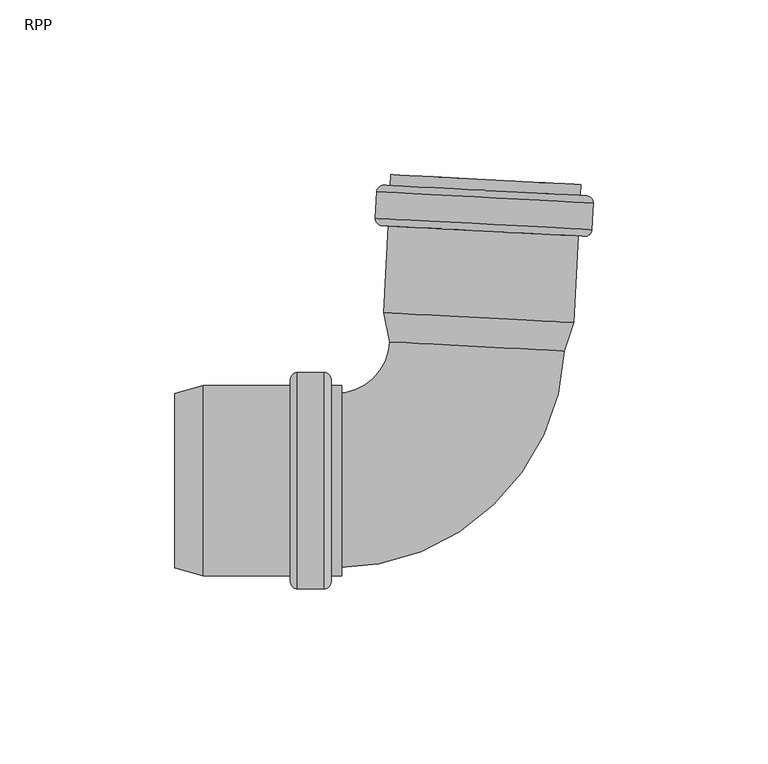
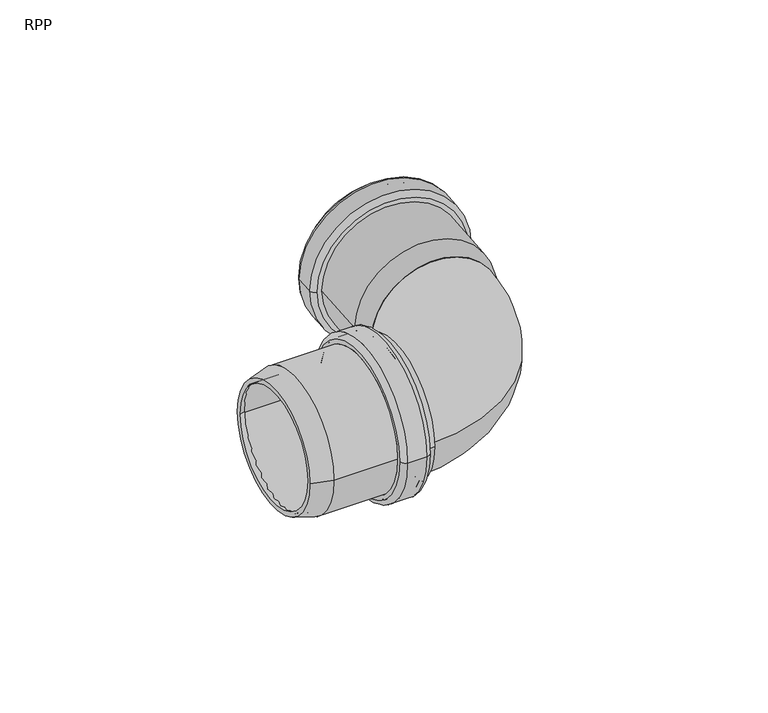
"""IFC4 building model written with IfcOpenShell, lengths in millimetres: pipe fitting geometry, RAUPIANO PLUS Bend : RPP."""

from ifc_helpers import new_model, si_unit, point, frame, origin, place, context, project, spatial, polyline, circle_curve, ellipse_curve, trimmed, source, transform, mapped, element, save
from ifc_brep_helpers import plane_surface, cylinder_surface, revolved_surface, advanced_brep


def rpp_967ad729(model_context):
    return source(origin(), model_context, "Body", "AdvancedBrep", [
        advanced_brep(
        [(-49.5, -25.3, 0.0), (-49.5, 25.3, 0.0), (-76.0393485, 25.3, 0.0), (-76.0393485, -25.3, 0.0), (-49.0, -29.1, 0.0), (-49.0, 29.1, 0.0), (-49.5, 28.6, 0.0), (-49.5, -28.6, 0.0), (-42.2, -29.1, 0.0), (-42.2, 29.1, 0.0), (-41.7, -28.6, 0.0), (-41.7, 28.6, 0.0), (-36.7, -25.3, 0.0), (-36.7, 25.3, 0.0), (-41.7, 25.3, 0.0), (-41.7, -25.3, 0.0), (-39.8, -27.2, 0.0), (-39.8, 27.2, 0.0), (-36.7, 27.2, 0.0), (-36.7, -27.2, 0.0), (-41.8, -31.0, 0.0), (-41.8, 31.0, 0.0), (-39.8, 29.0, 0.0), (-39.8, -29.0, 0.0), (-49.4, -31.0, 0.0), (-49.4, 31.0, 0.0), (-51.4, -29.0, 0.0), (-51.4, 29.0, 0.0), (-76.2894882, -27.2, 0.0), (-76.2894882, 27.2, 0.0), (-51.4, 27.2, 0.0), (-51.4, -27.2, 0.0), (-84.5, -25.0, 0.0), (-84.5, 25.0, 0.0), (-84.5, 23.0329753, 0.0), (-84.5, -23.0329753, 0.0)],
        [
            (0, 1, circle_curve(frame((-49.5, 0.0, 0.0), z_axis=(1.0, 0.0, 0.0), x_axis=(0.0, 1.0, 0.0)), 25.3)),
            (1, 2),
            (2, 3, circle_curve(frame((-76.0393485, 0.0, 0.0), z_axis=(-1.0, 0.0, 0.0), x_axis=(0.0, 1.0, 0.0)), 25.3)),
            (3, 0),
            (4, 5, circle_curve(frame((-49.0, 0.0, 0.0), z_axis=(1.0, 0.0, 0.0), x_axis=(0.0, 1.0, 0.0)), 29.1)),
            (5, 6, circle_curve(frame((-49.0, 28.6, 0.0), z_axis=(0.0, 0.0, 1.0), x_axis=(0.0, -1.0, 0.0)), 0.5)),
            (6, 7, circle_curve(frame((-49.5, 0.0, 0.0), z_axis=(-1.0, 0.0, 0.0), x_axis=(0.0, 1.0, 0.0)), 28.6)),
            (7, 4, circle_curve(frame((-49.0, -28.6, 0.0), z_axis=(0.0, 0.0, 1.0), x_axis=(0.0, 1.0, 0.0)), 0.5)),
            (8, 9, circle_curve(frame((-42.2, 0.0, 0.0), z_axis=(1.0, 0.0, 0.0), x_axis=(0.0, 1.0, 0.0)), 29.1)),
            (9, 5),
            (4, 8),
            (10, 11, circle_curve(frame((-41.7, 0.0, 0.0), z_axis=(1.0, 0.0, 0.0), x_axis=(0.0, 1.0, 0.0)), 28.6)),
            (11, 9, circle_curve(frame((-42.2, 28.6, 0.0), z_axis=(0.0, 0.0, 1.0), x_axis=(0.0, -1.0, 0.0)), 0.5)),
            (8, 10, circle_curve(frame((-42.2, -28.6, 0.0), z_axis=(0.0, 0.0, 1.0), x_axis=(0.0, 1.0, 0.0)), 0.5)),
            (12, 13, circle_curve(frame((-36.7, 0.0, 0.0), z_axis=(1.0, 0.0, 0.0), x_axis=(0.0, 1.0, 0.0)), 25.3)),
            (13, 14),
            (14, 15, circle_curve(frame((-41.7, 0.0, 0.0), z_axis=(-1.0, 0.0, 0.0), x_axis=(0.0, 1.0, 0.0)), 25.3)),
            (15, 12),
            (16, 17, circle_curve(frame((-39.8, 0.0, 0.0), z_axis=(1.0, 0.0, 0.0), x_axis=(0.0, 1.0, 0.0)), 27.2)),
            (17, 18),
            (18, 19, circle_curve(frame((-36.7, 0.0, 0.0), z_axis=(-1.0, 0.0, 0.0), x_axis=(0.0, 1.0, 0.0)), 27.2)),
            (19, 16),
            (20, 21, circle_curve(frame((-41.8, 0.0, 0.0), z_axis=(1.0, 0.0, 0.0), x_axis=(0.0, 1.0, 0.0)), 31.0)),
            (21, 22, circle_curve(frame((-41.8, 29.0, 0.0), z_axis=(0.0, 0.0, -1.0), x_axis=(0.0, -1.0, 0.0)), 2.0)),
            (22, 23, circle_curve(frame((-39.8, 0.0, 0.0), z_axis=(-1.0, 0.0, 0.0), x_axis=(0.0, 1.0, 0.0)), 29.0)),
            (23, 20, circle_curve(frame((-41.8, -29.0, 0.0), z_axis=(0.0, 0.0, -1.0), x_axis=(0.0, 1.0, 0.0)), 2.0)),
            (24, 25, circle_curve(frame((-49.4, 0.0, 0.0), z_axis=(1.0, 0.0, 0.0), x_axis=(0.0, 1.0, 0.0)), 31.0)),
            (25, 21),
            (20, 24),
            (26, 27, circle_curve(frame((-51.4, 0.0, 0.0), z_axis=(1.0, 0.0, 0.0), x_axis=(0.0, 1.0, 0.0)), 29.0)),
            (27, 25, circle_curve(frame((-49.4, 29.0, 0.0), z_axis=(0.0, 0.0, -1.0), x_axis=(0.0, -1.0, 0.0)), 2.0)),
            (24, 26, circle_curve(frame((-49.4, -29.0, 0.0), z_axis=(0.0, 0.0, -1.0), x_axis=(0.0, 1.0, 0.0)), 2.0)),
            (28, 29, circle_curve(frame((-76.2894882, 0.0, 0.0), z_axis=(1.0, 0.0, 0.0), x_axis=(0.0, 1.0, 0.0)), 27.2)),
            (29, 30),
            (30, 31, circle_curve(frame((-51.4, 0.0, 0.0), z_axis=(-1.0, 0.0, 0.0), x_axis=(0.0, 1.0, 0.0)), 27.2)),
            (31, 28),
            (32, 33, circle_curve(frame((-84.5, 0.0, 0.0), z_axis=(1.0, 0.0, 0.0), x_axis=(0.0, 1.0, 0.0)), 25.0)),
            (33, 29),
            (28, 32),
            (2, 34),
            (34, 35, circle_curve(frame((-84.5, 0.0, 0.0), z_axis=(-1.0, 0.0, 0.0), x_axis=(0.0, 1.0, 0.0)), 23.0329753)),
            (35, 3),
            (1, 0, circle_curve(frame((-49.5, 0.0, 0.0), z_axis=(1.0, 0.0, 0.0), x_axis=(0.0, -1.0, 0.0)), 25.3)),
            (3, 2, circle_curve(frame((-76.0393485, 0.0, 0.0), z_axis=(-1.0, 0.0, 0.0), x_axis=(0.0, -1.0, 0.0)), 25.3)),
            (6, 7, circle_curve(frame((-49.5, 0.0, 0.0), z_axis=(1.0, 0.0, 0.0), x_axis=(0.0, -1.0, 0.0)), 28.6)),
            (5, 4, circle_curve(frame((-49.0, 0.0, 0.0), z_axis=(1.0, 0.0, 0.0), x_axis=(0.0, -1.0, 0.0)), 29.1)),
            (9, 8, circle_curve(frame((-42.2, 0.0, 0.0), z_axis=(1.0, 0.0, 0.0), x_axis=(0.0, -1.0, 0.0)), 29.1)),
            (11, 10, circle_curve(frame((-41.7, 0.0, 0.0), z_axis=(1.0, 0.0, 0.0), x_axis=(0.0, -1.0, 0.0)), 28.6)),
            (14, 15, circle_curve(frame((-41.7, 0.0, 0.0), z_axis=(1.0, 0.0, 0.0), x_axis=(0.0, -1.0, 0.0)), 25.3)),
            (13, 12, circle_curve(frame((-36.7, 0.0, 0.0), z_axis=(1.0, 0.0, 0.0), x_axis=(0.0, -1.0, 0.0)), 25.3)),
            (18, 19, circle_curve(frame((-36.7, 0.0, 0.0), z_axis=(1.0, 0.0, 0.0), x_axis=(0.0, -1.0, 0.0)), 27.2)),
            (17, 16, circle_curve(frame((-39.8, 0.0, 0.0), z_axis=(1.0, 0.0, 0.0), x_axis=(0.0, -1.0, 0.0)), 27.2)),
            (22, 23, circle_curve(frame((-39.8, 0.0, 0.0), z_axis=(1.0, 0.0, 0.0), x_axis=(0.0, -1.0, 0.0)), 29.0)),
            (21, 20, circle_curve(frame((-41.8, 0.0, 0.0), z_axis=(1.0, 0.0, 0.0), x_axis=(0.0, -1.0, 0.0)), 31.0)),
            (25, 24, circle_curve(frame((-49.4, 0.0, 0.0), z_axis=(1.0, 0.0, 0.0), x_axis=(0.0, -1.0, 0.0)), 31.0)),
            (27, 26, circle_curve(frame((-51.4, 0.0, 0.0), z_axis=(1.0, 0.0, 0.0), x_axis=(0.0, -1.0, 0.0)), 29.0)),
            (30, 31, circle_curve(frame((-51.4, 0.0, 0.0), z_axis=(1.0, 0.0, 0.0), x_axis=(0.0, -1.0, 0.0)), 27.2)),
            (29, 28, circle_curve(frame((-76.2894882, 0.0, 0.0), z_axis=(1.0, 0.0, 0.0), x_axis=(0.0, -1.0, 0.0)), 27.2)),
            (33, 32, circle_curve(frame((-84.5, 0.0, 0.0), z_axis=(1.0, 0.0, 0.0), x_axis=(0.0, -1.0, 0.0)), 25.0)),
            (34, 35, circle_curve(frame((-84.5, 0.0, 0.0), z_axis=(1.0, 0.0, 0.0), x_axis=(0.0, -1.0, 0.0)), 23.0329753)),
        ],
        [
            revolved_surface(polyline([(-76.0393485, 25.3, 0.0), (-49.5, 25.3, 0.0)]), (-84.5, 0.0, 0.0), (-1.0, 0.0, 0.0)),
            revolved_surface(trimmed(ellipse_curve(frame((-49.0, 28.6, 0.0), z_axis=(0.0, 0.0, -1.0), x_axis=(0.0, -1.0, 0.0)), 0.5, 0.5), [point((-49.5, 28.6, 0.0))], [point((-49.0, 29.1, 0.0))], True, "CARTESIAN"), (-84.5, 0.0, 0.0), (-1.0, 0.0, 0.0)),
            revolved_surface(polyline([(-49.0, 29.1, 0.0), (-42.2, 29.1, 0.0)]), (-84.5, 0.0, 0.0), (-1.0, 0.0, 0.0)),
            revolved_surface(trimmed(ellipse_curve(frame((-42.2, 28.6, 0.0), z_axis=(0.0, 0.0, -1.0), x_axis=(0.0, -1.0, 0.0)), 0.5, 0.5), [point((-42.2, 29.1, 0.0))], [point((-41.7, 28.6, 0.0))], True, "CARTESIAN"), (-84.5, 0.0, 0.0), (-1.0, 0.0, 0.0)),
            revolved_surface(polyline([(-41.7, 25.3, 0.0), (-36.7, 25.3, 0.0)]), (-84.5, 0.0, 0.0), (-1.0, 0.0, 0.0)),
            cylinder_surface(frame((-84.5, 0.0, 0.0), z_axis=(-1.0, 0.0, 0.0), x_axis=(0.0, 1.0, 0.0)), 27.2),
            revolved_surface(trimmed(ellipse_curve(frame((-41.8, 29.0, 0.0), z_axis=(0.0, 0.0, 1.0), x_axis=(0.0, -1.0, 0.0)), 2.0, 2.0), [point((-39.8, 29.0, 0.0))], [point((-41.8, 31.0, 0.0))], True, "CARTESIAN"), (-84.5, 0.0, 0.0), (-1.0, 0.0, 0.0)),
            cylinder_surface(frame((-84.5, 0.0, 0.0), z_axis=(-1.0, 0.0, 0.0), x_axis=(0.0, 1.0, 0.0)), 31.0),
            revolved_surface(trimmed(ellipse_curve(frame((-49.4, 29.0, 0.0), z_axis=(0.0, 0.0, 1.0), x_axis=(0.0, -1.0, 0.0)), 2.0, 2.0), [point((-49.4, 31.0, 0.0))], [point((-51.4, 29.0, 0.0))], True, "CARTESIAN"), (-84.5, 0.0, 0.0), (-1.0, 0.0, 0.0)),
            revolved_surface(polyline([(-76.2894882, 27.2, 0.0), (-84.5, 25.0, 0.0)]), (-84.5, 0.0, 0.0), (-1.0, 0.0, 0.0)),
            revolved_surface(polyline([(-84.5, 23.0329753, 0.0), (-76.0393485, 25.3, 0.0)]), (-84.5, 0.0, 0.0), (-1.0, 0.0, 0.0)),
            revolved_surface(polyline([(-76.0393485, -25.3, 0.0), (-49.5, -25.3, 0.0)]), (-84.5, 0.0, 0.0), (-1.0, 0.0, 0.0)),
            plane_surface(frame((-49.5, 0.0, 0.0), z_axis=(1.0, 0.0, 0.0), x_axis=(0.0, -1.0, 0.0))),
            revolved_surface(trimmed(ellipse_curve(frame((-49.0, -28.6, 0.0), z_axis=(0.0, 0.0, 1.0), x_axis=(0.0, 1.0, 0.0)), 0.5, 0.5), [point((-49.5, -28.6, 0.0))], [point((-49.0, -29.1, 0.0))], True, "CARTESIAN"), (-84.5, 0.0, 0.0), (-1.0, 0.0, 0.0)),
            revolved_surface(polyline([(-49.0, -29.1, 0.0), (-42.2, -29.1, 0.0)]), (-84.5, 0.0, 0.0), (-1.0, 0.0, 0.0)),
            revolved_surface(trimmed(ellipse_curve(frame((-42.2, -28.6, 0.0), z_axis=(0.0, 0.0, 1.0), x_axis=(0.0, 1.0, 0.0)), 0.5, 0.5), [point((-42.2, -29.1, 0.0))], [point((-41.7, -28.6, 0.0))], True, "CARTESIAN"), (-84.5, 0.0, 0.0), (-1.0, 0.0, 0.0)),
            plane_surface(frame((-41.7, 0.0, 0.0), z_axis=(-1.0, 0.0, 0.0), x_axis=(0.0, -1.0, 0.0))),
            revolved_surface(polyline([(-41.7, -25.3, 0.0), (-36.7, -25.3, 0.0)]), (-84.5, 0.0, 0.0), (-1.0, 0.0, 0.0)),
            plane_surface(frame((-36.7, 0.0, 0.0), z_axis=(1.0, 0.0, 0.0), x_axis=(0.0, -1.0, 0.0))),
            cylinder_surface(frame((-84.5, 0.0, 0.0), z_axis=(-1.0, 0.0, 0.0), x_axis=(0.0, -1.0, 0.0)), 27.2),
            plane_surface(frame((-39.8, 0.0, 0.0), z_axis=(1.0, 0.0, 0.0), x_axis=(0.0, -1.0, 0.0))),
            revolved_surface(trimmed(ellipse_curve(frame((-41.8, -29.0, 0.0), z_axis=(0.0, 0.0, -1.0), x_axis=(0.0, 1.0, 0.0)), 2.0, 2.0), [point((-39.8, -29.0, 0.0))], [point((-41.8, -31.0, 0.0))], True, "CARTESIAN"), (-84.5, 0.0, 0.0), (-1.0, 0.0, 0.0)),
            cylinder_surface(frame((-84.5, 0.0, 0.0), z_axis=(-1.0, 0.0, 0.0), x_axis=(0.0, -1.0, 0.0)), 31.0),
            revolved_surface(trimmed(ellipse_curve(frame((-49.4, -29.0, 0.0), z_axis=(0.0, 0.0, -1.0), x_axis=(0.0, 1.0, 0.0)), 2.0, 2.0), [point((-49.4, -31.0, 0.0))], [point((-51.4, -29.0, 0.0))], True, "CARTESIAN"), (-84.5, 0.0, 0.0), (-1.0, 0.0, 0.0)),
            plane_surface(frame((-51.4, 0.0, 0.0), z_axis=(-1.0, 0.0, 0.0), x_axis=(0.0, -1.0, 0.0))),
            revolved_surface(polyline([(-76.2894882, -27.2, 0.0), (-84.5, -25.0, 0.0)]), (-84.5, 0.0, 0.0), (-1.0, 0.0, 0.0)),
            plane_surface(frame((-84.5, 0.0, 0.0), z_axis=(-1.0, 0.0, 0.0), x_axis=(0.0, -1.0, 0.0))),
            revolved_surface(polyline([(-84.5, -23.0329753, 0.0), (-76.0393485, -25.3, 0.0)]), (-84.5, 0.0, 0.0), (-1.0, 0.0, 0.0)),
        ],
        [
            (0, [[1, 2, 3, 4]]),
            (1, [[5, 6, 7, 8]]),
            (2, [[9, 10, -5, 11]]),
            (3, [[12, 13, -9, 14]]),
            (4, [[15, 16, 17, 18]]),
            (5, [[19, 20, 21, 22]]),
            (6, [[23, 24, 25, 26]]),
            (7, [[27, 28, -23, 29]]),
            (8, [[30, 31, -27, 32]]),
            (5, [[33, 34, 35, 36]]),
            (9, [[37, 38, -33, 39]]),
            (10, [[-3, 40, 41, 42]]),
            (11, [[43, -4, 44, -2]]),
            (12, [[45, -7], [-43, -1]]),
            (13, [[46, -8, -45, -6]]),
            (14, [[47, -11, -46, -10]]),
            (15, [[48, -14, -47, -13]]),
            (16, [[-48, -12], [49, -17]]),
            (17, [[50, -18, -49, -16]]),
            (18, [[51, -21], [-50, -15]]),
            (19, [[52, -22, -51, -20]]),
            (20, [[53, -25], [-52, -19]]),
            (21, [[54, -26, -53, -24]]),
            (22, [[55, -29, -54, -28]]),
            (23, [[56, -32, -55, -31]]),
            (24, [[-56, -30], [57, -35]]),
            (19, [[58, -36, -57, -34]]),
            (25, [[59, -39, -58, -38]]),
            (26, [[-59, -37], [60, -41]]),
            (27, [[-44, -42, -60, -40]]),
        ],
    ),
        advanced_brep(
        [(25.0163437, 37.2417843, 0.0), (-20.986475, 39.6526899, 0.0), (-22.8075966, 48.2203933, 0.0), (27.7230578, 45.5721939, 0.0), (29.6073626, 45.2229586, 0.0), (-24.718084, 48.0700347, 0.0), (-22.9508041, 39.755636, 0.0), (26.9806727, 37.1388382, 0.0), (30.9099778, 70.0783367, 0.0), (-23.4154689, 72.9254127, 0.0), (35.2071952, 79.4663036, 0.0), (-26.7078359, 82.7111329, 0.0), (-27.1055892, 75.1215484, 0.0), (34.809442, 71.8767191, 0.0), (31.6793164, 84.7581908, 0.0), (-22.6461303, 87.6052669, 0.0), (-22.8083718, 84.5095153, 0.0), (31.5170749, 81.6624393, 0.0), (29.5202405, 79.8644815, 0.0), (-21.010414, 82.5126809, 0.0), (-20.7487342, 87.5058285, 0.0), (29.7819203, 84.8576292, 0.0), (32.9329802, 72.3756092, 0.0), (-25.1872587, 75.4215619, 0.0), (-24.8313742, 82.2122427, 0.0), (33.2888647, 79.1662901, 0.0), (-21.4186344, 74.7233705, 0.0), (29.11202, 72.0751711, 0.0), (-25.213002, 73.0196174, 0.0), (32.707511, 69.984132, 0.0), (33.3146081, 81.5682346, 0.0), (-24.6059049, 84.60372, 0.0), (-24.3058915, 82.6853895, 0.0), (32.8157179, 79.6917728, 0.0), (32.4074975, 71.9024625, 0.0), (-24.7141119, 74.8960792, 0.0)],
        [
            (0, 1, circle_curve(frame((2.0149343, 38.4472371, 0.0), z_axis=(-0.05233595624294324, -0.9986295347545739, 0.0), x_axis=(-0.9986295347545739, 0.05233595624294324, 0.0)), 23.0329753)),
            (1, 2),
            (2, 3, circle_curve(frame((2.4577306, 46.8962936, 0.0), z_axis=(0.05233595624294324, 0.9986295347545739, 0.0), x_axis=(-0.9986295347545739, 0.05233595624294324, 0.0)), 25.3)),
            (3, 0),
            (4, 5, circle_curve(frame((2.4446393, 46.6464966, 0.0), z_axis=(-0.05233595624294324, -0.9986295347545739, 0.0), x_axis=(-0.9986295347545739, 0.05233595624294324, 0.0)), 27.2)),
            (5, 6),
            (6, 7, circle_curve(frame((2.0149343, 38.4472371, 0.0), z_axis=(0.05233595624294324, 0.9986295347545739, 0.0), x_axis=(-0.9986295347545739, 0.05233595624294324, 0.0)), 25.0)),
            (7, 4),
            (8, 9, circle_curve(frame((3.7472545, 71.5018747, 0.0), z_axis=(-0.05233595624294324, -0.9986295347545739, 0.0), x_axis=(-0.9986295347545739, 0.05233595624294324, 0.0)), 27.2)),
            (9, 5),
            (4, 8),
            (10, 11, circle_curve(frame((4.2496796, 81.0887182, 0.0), z_axis=(-0.05233595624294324, -0.9986295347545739, 0.0), x_axis=(-0.9986295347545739, 0.05233595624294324, 0.0)), 31.0)),
            (11, 12),
            (12, 13, circle_curve(frame((3.8519264, 73.4991338, 0.0), z_axis=(0.05233595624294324, 0.9986295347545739, 0.0), x_axis=(-0.9986295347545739, 0.05233595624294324, 0.0)), 31.0)),
            (13, 10),
            (14, 15, circle_curve(frame((4.516593, 86.1817288, 0.0), z_axis=(-0.05233595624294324, -0.9986295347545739, 0.0), x_axis=(-0.9986295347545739, 0.05233595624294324, 0.0)), 27.2)),
            (15, 16),
            (16, 17, circle_curve(frame((4.3543516, 83.0859773, 0.0), z_axis=(0.05233595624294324, 0.9986295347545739, 0.0), x_axis=(-0.9986295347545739, 0.05233595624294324, 0.0)), 27.2)),
            (17, 14),
            (18, 19, circle_curve(frame((4.2549132, 81.1885812, 0.0), z_axis=(-0.05233595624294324, -0.9986295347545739, 0.0), x_axis=(-0.9986295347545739, 0.05233595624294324, 0.0)), 25.3)),
            (19, 20),
            (20, 21, circle_curve(frame((4.516593, 86.1817288, 0.0), z_axis=(0.05233595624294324, 0.9986295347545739, 0.0), x_axis=(-0.9986295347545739, 0.05233595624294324, 0.0)), 25.3)),
            (21, 18),
            (22, 23, circle_curve(frame((3.8728608, 73.8985856, 0.0), z_axis=(-0.05233595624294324, -0.9986295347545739, 0.0), x_axis=(-0.9986295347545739, 0.05233595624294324, 0.0)), 29.1)),
            (23, 24),
            (24, 25, circle_curve(frame((4.2287453, 80.6892664, 0.0), z_axis=(0.05233595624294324, 0.9986295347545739, 0.0), x_axis=(-0.9986295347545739, 0.05233595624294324, 0.0)), 29.1)),
            (25, 22),
            (2, 26),
            (26, 27, circle_curve(frame((3.8466928, 73.3992708, 0.0), z_axis=(0.05233595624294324, 0.9986295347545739, 0.0), x_axis=(-0.9986295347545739, 0.05233595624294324, 0.0)), 25.3)),
            (27, 3),
            (1, 0, circle_curve(frame((2.0149343, 38.4472371, 0.0), z_axis=(-0.05233595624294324, -0.9986295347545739, 0.0), x_axis=(0.9986295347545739, -0.05233595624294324, 0.0)), 23.0329753)),
            (3, 2, circle_curve(frame((2.4577306, 46.8962936, 0.0), z_axis=(0.05233595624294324, 0.9986295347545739, 0.0), x_axis=(0.9986295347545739, -0.05233595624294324, 0.0)), 25.3)),
            (6, 7, circle_curve(frame((2.0149343, 38.4472371, 0.0), z_axis=(-0.05233595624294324, -0.9986295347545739, 0.0), x_axis=(0.9986295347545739, -0.05233595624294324, 0.0)), 25.0)),
            (5, 4, circle_curve(frame((2.4446393, 46.6464966, 0.0), z_axis=(-0.05233595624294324, -0.9986295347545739, 0.0), x_axis=(0.9986295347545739, -0.05233595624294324, 0.0)), 27.2)),
            (9, 8, circle_curve(frame((3.7472545, 71.5018747, 0.0), z_axis=(-0.05233595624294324, -0.9986295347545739, 0.0), x_axis=(0.9986295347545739, -0.05233595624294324, 0.0)), 27.2)),
            (28, 29, circle_curve(frame((3.7472545, 71.5018747, 0.0), z_axis=(-0.05233595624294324, -0.9986295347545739, 0.0), x_axis=(0.9986295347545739, -0.05233595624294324, 0.0)), 29.0)),
            (29, 28, circle_curve(frame((3.7472545, 71.5018747, 0.0), z_axis=(-0.05233595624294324, -0.9986295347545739, 0.0), x_axis=(-0.9986295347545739, 0.05233595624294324, 0.0)), 29.0)),
            (11, 10, circle_curve(frame((4.2496796, 81.0887182, 0.0), z_axis=(-0.05233595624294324, -0.9986295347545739, 0.0), x_axis=(0.9986295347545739, -0.05233595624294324, 0.0)), 31.0)),
            (13, 12, circle_curve(frame((3.8519264, 73.4991338, 0.0), z_axis=(0.05233595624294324, 0.9986295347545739, 0.0), x_axis=(0.9986295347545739, -0.05233595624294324, 0.0)), 31.0)),
            (30, 31, circle_curve(frame((4.3543516, 83.0859773, 0.0), z_axis=(0.05233595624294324, 0.9986295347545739, 0.0), x_axis=(0.9986295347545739, -0.05233595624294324, 0.0)), 29.0)),
            (31, 30, circle_curve(frame((4.3543516, 83.0859773, 0.0), z_axis=(0.05233595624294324, 0.9986295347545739, 0.0), x_axis=(-0.9986295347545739, 0.05233595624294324, 0.0)), 29.0)),
            (16, 17, circle_curve(frame((4.3543516, 83.0859773, 0.0), z_axis=(-0.05233595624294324, -0.9986295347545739, 0.0), x_axis=(0.9986295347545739, -0.05233595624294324, 0.0)), 27.2)),
            (15, 14, circle_curve(frame((4.516593, 86.1817288, 0.0), z_axis=(-0.05233595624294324, -0.9986295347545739, 0.0), x_axis=(0.9986295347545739, -0.05233595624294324, 0.0)), 27.2)),
            (20, 21, circle_curve(frame((4.516593, 86.1817288, 0.0), z_axis=(-0.05233595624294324, -0.9986295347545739, 0.0), x_axis=(0.9986295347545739, -0.05233595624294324, 0.0)), 25.3)),
            (19, 18, circle_curve(frame((4.2549132, 81.1885812, 0.0), z_axis=(-0.05233595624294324, -0.9986295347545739, 0.0), x_axis=(0.9986295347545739, -0.05233595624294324, 0.0)), 25.3)),
            (32, 33, circle_curve(frame((4.2549132, 81.1885812, 0.0), z_axis=(-0.05233595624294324, -0.9986295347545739, 0.0), x_axis=(0.9986295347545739, -0.05233595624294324, 0.0)), 28.6)),
            (33, 32, circle_curve(frame((4.2549132, 81.1885812, 0.0), z_axis=(-0.05233595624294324, -0.9986295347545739, 0.0), x_axis=(-0.9986295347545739, 0.05233595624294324, 0.0)), 28.6)),
            (23, 22, circle_curve(frame((3.8728608, 73.8985856, 0.0), z_axis=(-0.05233595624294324, -0.9986295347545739, 0.0), x_axis=(0.9986295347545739, -0.05233595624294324, 0.0)), 29.1)),
            (25, 24, circle_curve(frame((4.2287453, 80.6892664, 0.0), z_axis=(0.05233595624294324, 0.9986295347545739, 0.0), x_axis=(0.9986295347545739, -0.05233595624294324, 0.0)), 29.1)),
            (34, 35, circle_curve(frame((3.8466928, 73.3992708, 0.0), z_axis=(0.05233595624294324, 0.9986295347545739, 0.0), x_axis=(0.9986295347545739, -0.05233595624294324, 0.0)), 28.6)),
            (35, 34, circle_curve(frame((3.8466928, 73.3992708, 0.0), z_axis=(0.05233595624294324, 0.9986295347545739, 0.0), x_axis=(-0.9986295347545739, 0.05233595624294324, 0.0)), 28.6)),
            (26, 27, circle_curve(frame((3.8466928, 73.3992708, 0.0), z_axis=(-0.05233595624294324, -0.9986295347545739, 0.0), x_axis=(0.9986295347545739, -0.05233595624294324, 0.0)), 25.3)),
            (12, 28, circle_curve(frame((-25.1083301, 75.0168765, 0.0), z_axis=(0.0, 0.0, 1.0), x_axis=(0.9986295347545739, -0.05233595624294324, 0.0)), 2.0)),
            (29, 13, circle_curve(frame((32.8121829, 71.981391, 0.0), z_axis=(0.0, 0.0, 1.0), x_axis=(-0.9986295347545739, 0.05233595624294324, 0.0)), 2.0)),
            (31, 11, circle_curve(frame((-24.7105769, 82.606461, 0.0), z_axis=(0.0, 0.0, 1.0), x_axis=(0.9986295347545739, -0.05233595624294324, 0.0)), 2.0)),
            (10, 30, circle_curve(frame((33.2099362, 79.5709755, 0.0), z_axis=(0.0, 0.0, 1.0), x_axis=(-0.9986295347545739, 0.05233595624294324, 0.0)), 2.0)),
            (24, 32, circle_curve(frame((-24.3320594, 82.1860748, 0.0), z_axis=(0.0, 0.0, -1.0), x_axis=(0.9986295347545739, -0.05233595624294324, 0.0)), 0.5)),
            (33, 25, circle_curve(frame((32.78955, 79.1924581, 0.0), z_axis=(0.0, 0.0, -1.0), x_axis=(-0.9986295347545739, 0.05233595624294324, 0.0)), 0.5)),
            (35, 23, circle_curve(frame((-24.6879439, 75.3953939, 0.0), z_axis=(0.0, 0.0, -1.0), x_axis=(0.9986295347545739, -0.05233595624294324, 0.0)), 0.5)),
            (22, 34, circle_curve(frame((32.4336655, 72.4017772, 0.0), z_axis=(0.0, 0.0, -1.0), x_axis=(-0.9986295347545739, 0.05233595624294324, 0.0)), 0.5)),
        ],
        [
            revolved_surface(polyline([(-22.8075966, 48.2203933, 0.0), (-20.986475, 39.6526899, 0.0)]), (2.0149343, 38.4472371, 0.0), (0.05233595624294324, 0.9986295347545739, 0.0)),
            revolved_surface(polyline([(-22.9508041, 39.755636, 0.0), (-24.718084, 48.0700347, 0.0)]), (2.0149343, 38.4472371, 0.0), (0.05233595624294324, 0.9986295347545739, 0.0)),
            cylinder_surface(frame((2.0149343, 38.4472371, 0.0), z_axis=(0.05233595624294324, 0.9986295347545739, 0.0), x_axis=(-0.9986295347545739, 0.05233595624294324, 0.0)), 27.2),
            cylinder_surface(frame((2.0149343, 38.4472371, 0.0), z_axis=(0.05233595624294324, 0.9986295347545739, 0.0), x_axis=(-0.9986295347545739, 0.05233595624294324, 0.0)), 31.0),
            revolved_surface(polyline([(-20.748734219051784, 87.50582858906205, 0.0), (-21.010414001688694, 82.51268088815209, 0.0)]), (2.0149343, 38.4472371, 0.0), (0.05233595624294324, 0.9986295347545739, 0.0)),
            revolved_surface(polyline([(-24.83137421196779, 82.212242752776, 0.0), (-25.187258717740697, 75.42156185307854, 0.0)]), (2.0149343, 38.4472371, 0.0), (0.05233595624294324, 0.9986295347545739, 0.0)),
            revolved_surface(polyline([(-21.418634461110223, 74.72337050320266, 0.0), (-22.807596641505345, 48.22039328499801, 0.0)]), (2.0149343, 38.4472371, 0.0), (0.05233595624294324, 0.9986295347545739, 0.0)),
            revolved_surface(polyline([(27.7230578, 45.5721939, 0.0), (25.0163437, 37.2417843, 0.0)]), (2.0149343, 38.4472371, 0.0), (0.05233595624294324, 0.9986295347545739, 0.0)),
            plane_surface(frame((2.0149343, 38.4472371, 0.0), z_axis=(-0.05233595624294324, -0.9986295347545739, 0.0), x_axis=(0.9986295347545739, -0.05233595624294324, 0.0))),
            revolved_surface(polyline([(26.9806727, 37.1388382, 0.0), (29.6073626, 45.2229586, 0.0)]), (2.0149343, 38.4472371, 0.0), (0.05233595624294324, 0.9986295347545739, 0.0)),
            cylinder_surface(frame((2.0149343, 38.4472371, 0.0), z_axis=(0.05233595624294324, 0.9986295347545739, 0.0), x_axis=(0.9986295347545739, -0.05233595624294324, 0.0)), 27.2),
            plane_surface(frame((3.7472545, 71.5018747, 0.0), z_axis=(-0.05233595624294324, -0.9986295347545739, 0.0), x_axis=(0.9986295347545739, -0.05233595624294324, 0.0))),
            cylinder_surface(frame((2.0149343, 38.4472371, 0.0), z_axis=(0.05233595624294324, 0.9986295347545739, 0.0), x_axis=(0.9986295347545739, -0.05233595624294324, 0.0)), 31.0),
            plane_surface(frame((4.3543516, 83.0859773, 0.0), z_axis=(0.05233595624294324, 0.9986295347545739, 0.0), x_axis=(0.9986295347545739, -0.05233595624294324, 0.0))),
            plane_surface(frame((4.516593, 86.1817288, 0.0), z_axis=(0.05233595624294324, 0.9986295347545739, 0.0), x_axis=(0.9986295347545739, -0.05233595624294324, 0.0))),
            revolved_surface(polyline([(29.78192023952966, 84.85762920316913, 0.0), (29.52024045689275, 79.86448150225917, 0.0)]), (2.0149343, 38.4472371, 0.0), (0.05233595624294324, 0.9986295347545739, 0.0)),
            plane_surface(frame((4.2549132, 81.1885812, 0.0), z_axis=(-0.05233595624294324, -0.9986295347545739, 0.0), x_axis=(0.9986295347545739, -0.05233595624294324, 0.0))),
            revolved_surface(polyline([(33.28886471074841, 79.16629009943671, 0.0), (32.93298020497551, 72.37560919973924, 0.0)]), (2.0149343, 38.4472371, 0.0), (0.05233595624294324, 0.9986295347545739, 0.0)),
            plane_surface(frame((3.8466928, 73.3992708, 0.0), z_axis=(0.05233595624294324, 0.9986295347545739, 0.0), x_axis=(0.9986295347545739, -0.05233595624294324, 0.0))),
            revolved_surface(polyline([(29.112019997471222, 72.07517111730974, 0.0), (27.7230578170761, 45.57219389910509, 0.0)]), (2.0149343, 38.4472371, 0.0), (0.05233595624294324, 0.9986295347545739, 0.0)),
            revolved_surface(trimmed(ellipse_curve(frame((-25.1083301, 75.0168765, 0.0), z_axis=(0.0, 0.0, -1.0), x_axis=(0.9986295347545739, -0.05233595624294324, 0.0)), 2.0, 2.0), [point((-25.213002, 73.0196174, 0.0))], [point((-27.1055892, 75.1215484, 0.0))], True, "CARTESIAN"), (2.0149343, 38.4472371, 0.0), (0.05233595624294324, 0.9986295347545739, 0.0)),
            revolved_surface(trimmed(ellipse_curve(frame((-24.7105769, 82.606461, 0.0), z_axis=(0.0, 0.0, -1.0), x_axis=(0.9986295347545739, -0.05233595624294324, 0.0)), 2.0, 2.0), [point((-26.7078359, 82.7111329, 0.0))], [point((-24.6059049, 84.60372, 0.0))], True, "CARTESIAN"), (2.0149343, 38.4472371, 0.0), (0.05233595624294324, 0.9986295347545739, 0.0)),
            revolved_surface(trimmed(ellipse_curve(frame((-24.3320594, 82.1860748, 0.0), z_axis=(0.0, 0.0, 1.0), x_axis=(0.9986295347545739, -0.05233595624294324, 0.0)), 0.5, 0.5), [point((-24.3058915, 82.6853895, 0.0))], [point((-24.8313742, 82.2122427, 0.0))], True, "CARTESIAN"), (2.0149343, 38.4472371, 0.0), (0.05233595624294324, 0.9986295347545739, 0.0)),
            revolved_surface(trimmed(ellipse_curve(frame((-24.6879439, 75.3953939, 0.0), z_axis=(0.0, 0.0, 1.0), x_axis=(0.9986295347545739, -0.05233595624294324, 0.0)), 0.5, 0.5), [point((-25.1872587, 75.4215619, 0.0))], [point((-24.7141119, 74.8960792, 0.0))], True, "CARTESIAN"), (2.0149343, 38.4472371, 0.0), (0.05233595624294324, 0.9986295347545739, 0.0)),
            revolved_surface(trimmed(ellipse_curve(frame((32.8121829, 71.981391, 0.0), z_axis=(0.0, 0.0, 1.0), x_axis=(-0.9986295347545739, 0.05233595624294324, 0.0)), 2.0, 2.0), [point((32.707511, 69.984132, 0.0))], [point((34.809442, 71.8767191, 0.0))], True, "CARTESIAN"), (2.0149343, 38.4472371, 0.0), (0.05233595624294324, 0.9986295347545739, 0.0)),
            revolved_surface(trimmed(ellipse_curve(frame((33.2099362, 79.5709755, 0.0), z_axis=(0.0, 0.0, 1.0), x_axis=(-0.9986295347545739, 0.05233595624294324, 0.0)), 2.0, 2.0), [point((35.2071952, 79.4663036, 0.0))], [point((33.3146081, 81.5682346, 0.0))], True, "CARTESIAN"), (2.0149343, 38.4472371, 0.0), (0.05233595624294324, 0.9986295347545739, 0.0)),
            revolved_surface(trimmed(ellipse_curve(frame((32.78955, 79.1924581, 0.0), z_axis=(0.0, 0.0, -1.0), x_axis=(-0.9986295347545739, 0.05233595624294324, 0.0)), 0.5, 0.5), [point((32.8157179, 79.6917728, 0.0))], [point((33.2888647, 79.1662901, 0.0))], True, "CARTESIAN"), (2.0149343, 38.4472371, 0.0), (0.05233595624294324, 0.9986295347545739, 0.0)),
            revolved_surface(trimmed(ellipse_curve(frame((32.4336655, 72.4017772, 0.0), z_axis=(0.0, 0.0, -1.0), x_axis=(-0.9986295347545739, 0.05233595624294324, 0.0)), 0.5, 0.5), [point((32.9329802, 72.3756092, 0.0))], [point((32.4074975, 71.9024625, 0.0))], True, "CARTESIAN"), (2.0149343, 38.4472371, 0.0), (0.05233595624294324, 0.9986295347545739, 0.0)),
        ],
        [
            (0, [[1, 2, 3, 4]]),
            (1, [[5, 6, 7, 8]]),
            (2, [[9, 10, -5, 11]]),
            (3, [[12, 13, 14, 15]]),
            (2, [[16, 17, 18, 19]]),
            (4, [[20, 21, 22, 23]]),
            (5, [[24, 25, 26, 27]]),
            (6, [[-3, 28, 29, 30]]),
            (7, [[31, -4, 32, -2]]),
            (8, [[33, -7], [-31, -1]]),
            (9, [[34, -8, -33, -6]]),
            (10, [[35, -11, -34, -10]]),
            (11, [[36, 37], [-35, -9]]),
            (12, [[38, -15, 39, -13]]),
            (13, [[40, 41], [42, -18]]),
            (10, [[43, -19, -42, -17]]),
            (14, [[-43, -16], [44, -22]]),
            (15, [[45, -23, -44, -21]]),
            (16, [[46, 47], [-45, -20]]),
            (17, [[48, -27, 49, -25]]),
            (18, [[50, 51], [52, -29]]),
            (19, [[-32, -30, -52, -28]]),
            (20, [[-14, 53, -37, 54]]),
            (21, [[-41, 55, -12, 56]]),
            (22, [[-26, 57, -47, 58]]),
            (23, [[-51, 59, -24, 60]]),
            (24, [[-39, -54, -36, -53]]),
            (25, [[-40, -56, -38, -55]]),
            (26, [[-49, -58, -46, -57]]),
            (27, [[-50, -60, -48, -59]]),
        ],
    ),
        advanced_brep(
        [(-38.5, 23.2, 0.0), (-38.5, -23.2, 0.0), (-84.5, -23.2, 0.0), (-84.5, 23.2, 0.0), (-80.7679492, 25.0, 0.0), (-80.7679492, -25.0, 0.0), (-38.5, -25.0, 0.0), (-38.5, 25.0, 0.0), (-84.5, 24.0, 0.0), (-84.5, -24.0, 0.0)],
        [
            (0, 1, circle_curve(frame((-38.5, 0.0, 0.0), z_axis=(1.0, 0.0, 0.0), x_axis=(0.0, -1.0, 0.0)), 23.2)),
            (1, 2),
            (2, 3, circle_curve(frame((-84.5, 0.0, 0.0), z_axis=(-1.0, 0.0, 0.0), x_axis=(0.0, -1.0, 0.0)), 23.2)),
            (3, 0),
            (4, 5, circle_curve(frame((-80.7679492, 0.0, 0.0), z_axis=(1.0, 0.0, 0.0), x_axis=(0.0, -1.0, 0.0)), 25.0)),
            (5, 6),
            (6, 7, circle_curve(frame((-38.5, 0.0, 0.0), z_axis=(-1.0, 0.0, 0.0), x_axis=(0.0, -1.0, 0.0)), 25.0)),
            (7, 4),
            (8, 9, circle_curve(frame((-84.5, 0.0, 0.0), z_axis=(1.0, 0.0, 0.0), x_axis=(0.0, -1.0, 0.0)), 24.0)),
            (9, 5),
            (4, 8),
            (1, 0, circle_curve(frame((-38.5, 0.0, 0.0), z_axis=(1.0, 0.0, 0.0), x_axis=(0.0, 1.0, 0.0)), 23.2)),
            (3, 2, circle_curve(frame((-84.5, 0.0, 0.0), z_axis=(-1.0, 0.0, 0.0), x_axis=(0.0, 1.0, 0.0)), 23.2)),
            (6, 7, circle_curve(frame((-38.5, 0.0, 0.0), z_axis=(1.0, 0.0, 0.0), x_axis=(0.0, 1.0, 0.0)), 25.0)),
            (5, 4, circle_curve(frame((-80.7679492, 0.0, 0.0), z_axis=(1.0, 0.0, 0.0), x_axis=(0.0, 1.0, 0.0)), 25.0)),
            (9, 8, circle_curve(frame((-84.5, 0.0, 0.0), z_axis=(1.0, 0.0, 0.0), x_axis=(0.0, 1.0, 0.0)), 24.0)),
        ],
        [
            revolved_surface(polyline([(-84.5, -23.2, 0.0), (-38.5, -23.2, 0.0)]), (-38.5, 0.0, 0.0), (-1.0, 0.0, 0.0)),
            cylinder_surface(frame((-38.5, 0.0, 0.0), z_axis=(-1.0, 0.0, 0.0), x_axis=(0.0, -1.0, 0.0)), 25.0),
            revolved_surface(polyline([(-80.7679492, -25.0, 0.0), (-84.5, -24.0, 0.0)]), (-38.5, 0.0, 0.0), (-1.0, 0.0, 0.0)),
            revolved_surface(polyline([(-84.5, 23.2, 0.0), (-38.5, 23.2, 0.0)]), (-38.5, 0.0, 0.0), (-1.0, 0.0, 0.0)),
            plane_surface(frame((-38.5, 0.0, 0.0), z_axis=(1.0, 0.0, 0.0), x_axis=(0.0, 1.0, 0.0))),
            cylinder_surface(frame((-38.5, 0.0, 0.0), z_axis=(-1.0, 0.0, 0.0), x_axis=(0.0, 1.0, 0.0)), 25.0),
            revolved_surface(polyline([(-80.7679492, 25.0, 0.0), (-84.5, 24.0, 0.0)]), (-38.5, 0.0, 0.0), (-1.0, 0.0, 0.0)),
            plane_surface(frame((-84.5, 0.0, 0.0), z_axis=(-1.0, 0.0, 0.0), x_axis=(0.0, 1.0, 0.0))),
        ],
        [
            (0, [[1, 2, 3, 4]]),
            (1, [[5, 6, 7, 8]]),
            (2, [[9, 10, -5, 11]]),
            (3, [[12, -4, 13, -2]]),
            (4, [[14, -7], [-12, -1]]),
            (5, [[15, -8, -14, -6]]),
            (6, [[16, -11, -15, -10]]),
            (7, [[-16, -9], [-13, -3]]),
        ],
    ),
        advanced_brep(
        [(-38.5, -25.0, 0.0), (-38.5, 25.0, 0.0), (-38.5, -23.2, 0.0), (-38.5, 23.2, 0.0), (26.9806727, 37.1388382, 0.0), (-22.9508041, 39.755636, 0.0), (25.1831395, 37.2330429, 0.0), (-21.1532709, 39.6614313, 0.0)],
        [
            (0, 1, circle_curve(frame((-38.5, 0.0, 0.0), z_axis=(-1.0, 0.0, 0.0), x_axis=(0.0, 1.0, 0.0)), 25.0)),
            (1, 0, circle_curve(frame((-38.5, 0.0, 0.0), z_axis=(-1.0, 0.0, 0.0), x_axis=(0.0, 1.0, 0.0)), 25.0)),
            (2, 3, circle_curve(frame((-38.5, 0.0, 0.0), z_axis=(1.0, 0.0, 0.0), x_axis=(0.0, 1.0, 0.0)), 23.2)),
            (3, 2, circle_curve(frame((-38.5, 0.0, 0.0), z_axis=(1.0, 0.0, 0.0), x_axis=(0.0, 1.0, 0.0)), 23.2)),
            (4, 5, circle_curve(frame((2.0149343, 38.4472371, 0.0), z_axis=(0.05233595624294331, 0.9986295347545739, 0.0), x_axis=(-0.9986295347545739, 0.05233595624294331, 0.0)), 25.0)),
            (5, 4, circle_curve(frame((2.0149343, 38.4472371, 0.0), z_axis=(0.05233595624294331, 0.9986295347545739, 0.0), x_axis=(-0.9986295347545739, 0.05233595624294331, 0.0)), 25.0)),
            (6, 7, circle_curve(frame((2.0149343, 38.4472371, 0.0), z_axis=(-0.05233595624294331, -0.9986295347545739, 0.0), x_axis=(-0.9986295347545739, 0.05233595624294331, 0.0)), 23.2)),
            (7, 6, circle_curve(frame((2.0149343, 38.4472371, 0.0), z_axis=(-0.05233595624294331, -0.9986295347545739, 0.0), x_axis=(-0.9986295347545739, 0.05233595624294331, 0.0)), 23.2)),
            (7, 3, circle_curve(frame((-38.5, 40.5705348, 0.0), z_axis=(0.0, 0.0, -1.0), x_axis=(0.0, -1.0, 0.0)), 17.3705348)),
            (2, 6, circle_curve(frame((-38.5, 40.5705348, 0.0), z_axis=(0.0, 0.0, 1.0), x_axis=(0.0, -1.0, 0.0)), 63.7705348)),
            (5, 1, circle_curve(frame((-38.5, 40.5705348, 0.0), z_axis=(0.0, 0.0, -1.0), x_axis=(0.0, -1.0, 0.0)), 15.5705348)),
            (0, 4, circle_curve(frame((-38.5, 40.5705348, 0.0), z_axis=(0.0, 0.0, 1.0), x_axis=(0.0, -1.0, 0.0)), 65.5705348)),
        ],
        [
            plane_surface(frame((-38.5, 0.0, 0.0), z_axis=(-1.0, 0.0, 0.0), x_axis=(0.0, 0.0, 1.0))),
            plane_surface(frame((2.0149343, 38.4472371, 0.0), z_axis=(0.05233595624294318, 0.9986295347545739, 0.0), x_axis=(0.0, 0.0, 1.0))),
            revolved_surface(trimmed(ellipse_curve(frame((-38.5, 0.0, 0.0), z_axis=(1.0, 0.0, 0.0), x_axis=(0.0, 1.0, 0.0)), 23.2, 23.2), [point((-38.5, -23.2, 0.0))], [point((-38.5, 23.2, 0.0))], True, "CARTESIAN"), (-38.5, 40.5705348, 0.0), (0.0, 0.0, 1.0)),
            revolved_surface(trimmed(ellipse_curve(frame((-38.5, 0.0, 0.0), z_axis=(1.0, 0.0, 0.0), x_axis=(0.0, 1.0, 0.0)), 23.2, 23.2), [point((-38.5, 23.2, 0.0))], [point((-38.5, -23.2, 0.0))], True, "CARTESIAN"), (-38.5, 40.5705348, 0.0), (0.0, 0.0, 1.0)),
            revolved_surface(trimmed(ellipse_curve(frame((-38.5, 0.0, 0.0), z_axis=(-1.0, 0.0, 0.0), x_axis=(0.0, 1.0, 0.0)), 25.0, 25.0), [point((-38.5, -25.0, 0.0))], [point((-38.5, 25.0, 0.0))], True, "CARTESIAN"), (-38.5, 40.5705348, 0.0), (0.0, 0.0, 1.0)),
            revolved_surface(trimmed(ellipse_curve(frame((-38.5, 0.0, 0.0), z_axis=(-1.0, 0.0, 0.0), x_axis=(0.0, 1.0, 0.0)), 25.0, 25.0), [point((-38.5, 25.0, 0.0))], [point((-38.5, -25.0, 0.0))], True, "CARTESIAN"), (-38.5, 40.5705348, 0.0), (0.0, 0.0, 1.0)),
        ],
        [
            (0, [[1, 2], [3, 4]]),
            (1, [[5, 6], [7, 8]]),
            (2, [[9, -3, 10, -8]]),
            (3, [[-10, -4, -9, -7]]),
            (4, [[11, -1, 12, -6]]),
            (5, [[-12, -2, -11, -5]]),
        ],
    ),
    ])


if __name__ == "__main__":
    model = new_model("IFC4")
    model_context = context("Model", 3, world=origin())
    ifc_project = project(units=[si_unit("LENGTHUNIT", "METRE", prefix="MILLI")], contexts=[model_context])
    site = spatial("IfcSite", under=ifc_project)
    building = spatial("IfcBuilding", under=site)
    placement = place(None, origin())
    rpp_shape = rpp_967ad729(model_context)
    element("IfcPipeFitting", 1, ObjectType="RAUPIANO PLUS Bend : RPP", at=placement, inside=building, context=model_context, shape_type="MappedRepresentation", body=[
        mapped(rpp_shape, transform((0.0, 0.0, 0.0), x_axis=(1.0, 0.0, 0.0), y_axis=(0.0, 1.0, 0.0), z_axis=(0.0, 0.0, 1.0))),
    ])
    save(model, "model.ifc")
